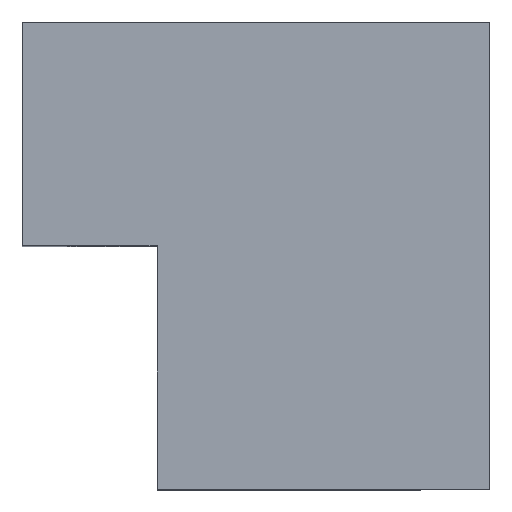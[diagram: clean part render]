
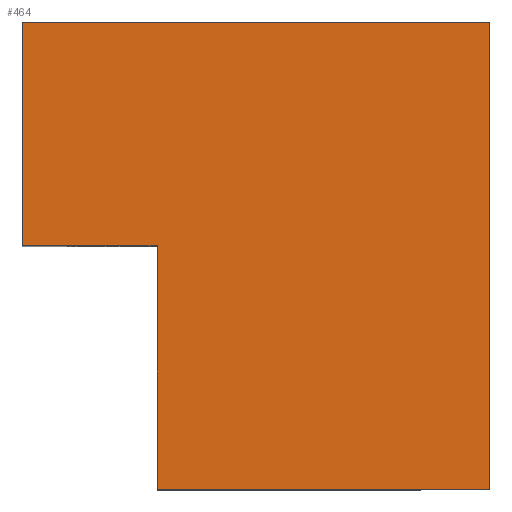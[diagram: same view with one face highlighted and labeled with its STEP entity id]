
A CAD part, top view. The second image highlights one B-rep face of the part: STEP entity #464.
In plain terms, the highlighted planar face has unit normal (0, 0, 1).
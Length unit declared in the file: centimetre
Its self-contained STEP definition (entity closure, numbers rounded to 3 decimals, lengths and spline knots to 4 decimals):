
#8 = EDGE_CURVE ( 'NONE', #895, #350, #729, .T. ) ;
#24 = CARTESIAN_POINT ( 'NONE',  ( 288.1728, 0., 1000. ) ) ;
#31 = EDGE_CURVE ( 'NONE', #643, #627, #371, .T. ) ;
#80 = CARTESIAN_POINT ( 'NONE',  ( 0., 520.953, 1000. ) ) ;
#166 = VECTOR ( 'NONE', #463, 100. ) ;
#173 = CARTESIAN_POINT ( 'NONE',  ( 1000., 1000., 1000. ) ) ;
#186 = PLANE ( 'NONE',  #533 ) ;
#235 = ORIENTED_EDGE ( 'NONE', *, *, #748, .T. ) ;
#241 = VECTOR ( 'NONE', #736, 100. ) ;
#267 = DIRECTION ( 'NONE',  ( 0., -1., 0. ) ) ;
#293 = EDGE_LOOP ( 'NONE', ( #358, #1047, #235, #761, #823, #294 ) ) ;
#294 = ORIENTED_EDGE ( 'NONE', *, *, #788, .F. ) ;
#316 = VECTOR ( 'NONE', #763, 100. ) ;
#332 = EDGE_CURVE ( 'NONE', #428, #895, #527, .T. ) ;
#350 = VERTEX_POINT ( 'NONE', #954 ) ;
#354 = DIRECTION ( 'NONE',  ( 1., 0., 0. ) ) ;
#358 = ORIENTED_EDGE ( 'NONE', *, *, #332, .T. ) ;
#371 = LINE ( 'NONE', #460, #660 ) ;
#412 = CARTESIAN_POINT ( 'NONE',  ( 1000., 1000., 1000. ) ) ;
#424 = DIRECTION ( 'NONE',  ( -1., 0., 0. ) ) ;
#428 = VERTEX_POINT ( 'NONE', #519 ) ;
#438 = CARTESIAN_POINT ( 'NONE',  ( 0., 0., 1000. ) ) ;
#460 = CARTESIAN_POINT ( 'NONE',  ( 0., 1000., 1000. ) ) ;
#463 = DIRECTION ( 'NONE',  ( -1., 0., 0. ) ) ;
#464 = ADVANCED_FACE ( 'NONE', ( #947 ), #186, .T. ) ;
#489 = VECTOR ( 'NONE', #424, 100. ) ;
#519 = CARTESIAN_POINT ( 'NONE',  ( 288.1728, 520.953, 1000. ) ) ;
#523 = CARTESIAN_POINT ( 'NONE',  ( 288.1728, 520.953, 1000. ) ) ;
#527 = LINE ( 'NONE', #523, #825 ) ;
#533 = AXIS2_PLACEMENT_3D ( 'NONE', #438, #782, #354 ) ;
#535 = EDGE_CURVE ( 'NONE', #813, #643, #978, .T. ) ;
#627 = VERTEX_POINT ( 'NONE', #80 ) ;
#634 = DIRECTION ( 'NONE',  ( 0., -1., 0. ) ) ;
#643 = VERTEX_POINT ( 'NONE', #749 ) ;
#660 = VECTOR ( 'NONE', #634, 100. ) ;
#673 = CARTESIAN_POINT ( 'NONE',  ( 0., 520.953, 1000. ) ) ;
#729 = LINE ( 'NONE', #1055, #241 ) ;
#736 = DIRECTION ( 'NONE',  ( 1., 0., 0. ) ) ;
#748 = EDGE_CURVE ( 'NONE', #350, #813, #854, .T. ) ;
#749 = CARTESIAN_POINT ( 'NONE',  ( 0., 1000., 1000. ) ) ;
#761 = ORIENTED_EDGE ( 'NONE', *, *, #535, .T. ) ;
#763 = DIRECTION ( 'NONE',  ( 0., 1., 0. ) ) ;
#773 = LINE ( 'NONE', #673, #489 ) ;
#782 = DIRECTION ( 'NONE',  ( 0., 0., 1. ) ) ;
#788 = EDGE_CURVE ( 'NONE', #428, #627, #773, .T. ) ;
#813 = VERTEX_POINT ( 'NONE', #173 ) ;
#823 = ORIENTED_EDGE ( 'NONE', *, *, #31, .T. ) ;
#824 = CARTESIAN_POINT ( 'NONE',  ( 0., 1000., 1000. ) ) ;
#825 = VECTOR ( 'NONE', #267, 100. ) ;
#854 = LINE ( 'NONE', #412, #316 ) ;
#895 = VERTEX_POINT ( 'NONE', #24 ) ;
#947 = FACE_OUTER_BOUND ( 'NONE', #293, .T. ) ;
#954 = CARTESIAN_POINT ( 'NONE',  ( 1000., 0., 1000. ) ) ;
#978 = LINE ( 'NONE', #824, #166 ) ;
#1047 = ORIENTED_EDGE ( 'NONE', *, *, #8, .T. ) ;
#1055 = CARTESIAN_POINT ( 'NONE',  ( 0., 0., 1000. ) ) ;
